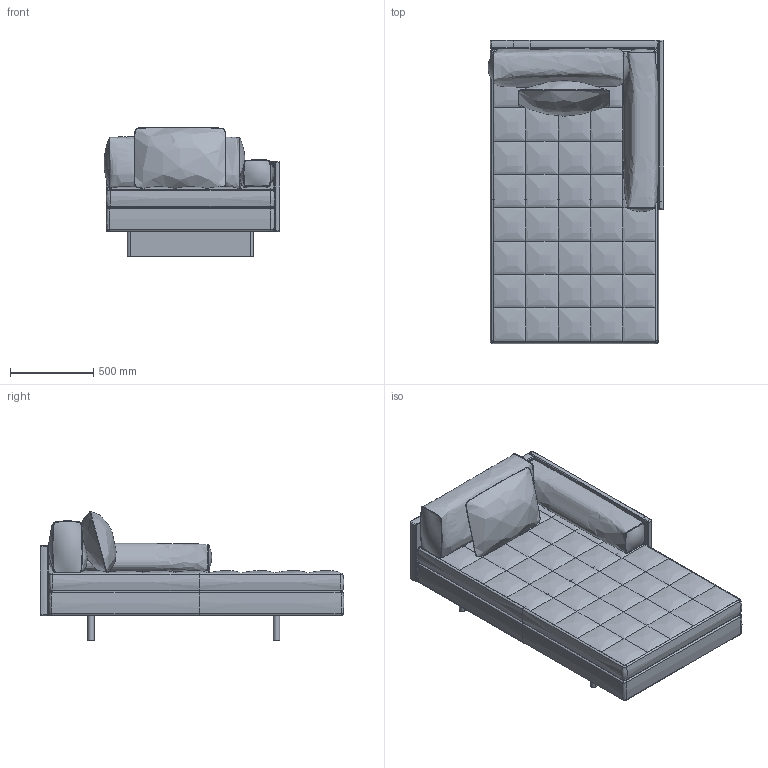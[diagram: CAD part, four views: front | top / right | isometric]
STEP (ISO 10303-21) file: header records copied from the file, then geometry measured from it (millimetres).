
FILE_DESCRIPTION(/* description */ (''),/* implementation_level */ '2;1');
FILE_NAME(/* name */ 'Asymmetric_Grand_CB-672GCHL_3D',/* time_stamp */ '2024-06-27T12:35:06+02:00',/* author */ (''),/* organization */ (''),/* preprocessor_version */ 'ST-DEVELOPER v16.5',/* originating_system */ 'Rhino 7.34',/* authorisation */ '');
FILE_SCHEMA (('AUTOMOTIVE_DESIGN'));
Length unit declared in the file: centimetre
Products named in the file (2): Document; Asymmetric_Grand_CB-672GCHL
Assembly tree (1 placements, depth 2):
  Document
    Asymmetric_Grand_CB-672GCHL
Bounding box: 1058.25 x 1830 x 778.83 mm (x, y, z)
Volume: 522574712.7 mm3; surface area: 14689344.5 mm2
Topology: 11 solids, 62 shells, 254 faces, 616 edges, 425 vertices
Faces by surface type: bspline 204, cylinder 30, plane 20
Entity records: 52549 total; most frequent: CARTESIAN_POINT 48994, ORIENTED_EDGE 1044, EDGE_CURVE 616, VERTEX_POINT 425, B_SPLINE_CURVE_WITH_KNOTS 268, ADVANCED_FACE 254, FACE_OUTER_BOUND 254, EDGE_LOOP 254
